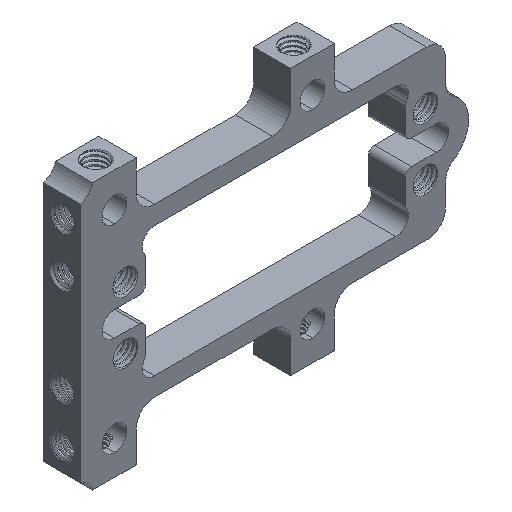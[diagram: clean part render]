
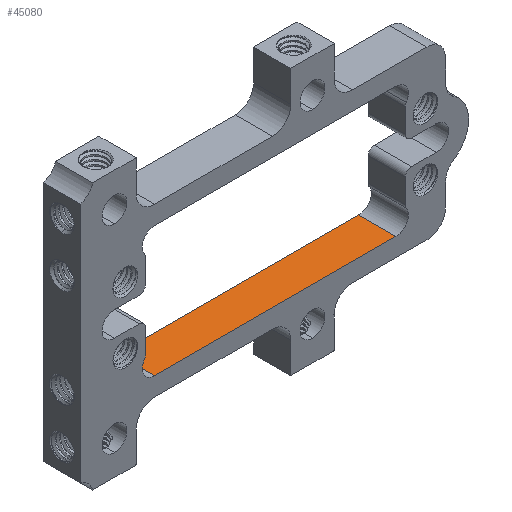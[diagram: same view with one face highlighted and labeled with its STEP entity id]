
A CAD part, isometric view. The second image highlights one B-rep face of the part: STEP entity #45080.
In plain terms, the highlighted planar face has unit normal (0, 0, 1).
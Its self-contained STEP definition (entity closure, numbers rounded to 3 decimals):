
#1235 = CARTESIAN_POINT ( 'NONE',  ( 0., 6., -10.5 ) ) ;
#4959 = EDGE_CURVE ( 'NONE', #9619, #38831, #83726, .T. ) ;
#5172 = VECTOR ( 'NONE', #21222, 1000. ) ;
#5644 = DIRECTION ( 'NONE',  ( 1., 0., 0. ) ) ;
#6178 = DIRECTION ( 'NONE',  ( 1., 0., 0. ) ) ;
#9619 = VERTEX_POINT ( 'NONE', #17512 ) ;
#12418 = CARTESIAN_POINT ( 'NONE',  ( 19.5, -1.521, -10.5 ) ) ;
#13304 = EDGE_CURVE ( 'NONE', #9619, #14862, #44185, .T. ) ;
#14862 = VERTEX_POINT ( 'NONE', #49595 ) ;
#17512 = CARTESIAN_POINT ( 'NONE',  ( -19.5, 0., -10.5 ) ) ;
#21021 = AXIS2_PLACEMENT_3D ( 'NONE', #40973, #89407, #5644 ) ;
#21222 = DIRECTION ( 'NONE',  ( 1., 0., 0. ) ) ;
#25007 = EDGE_LOOP ( 'NONE', ( #82067, #88527, #84897, #43278 ) ) ;
#25176 = CARTESIAN_POINT ( 'NONE',  ( 19.5, 0., -10.5 ) ) ;
#25528 = CARTESIAN_POINT ( 'NONE',  ( -19.5, -1.521, -10.5 ) ) ;
#34347 = VERTEX_POINT ( 'NONE', #38993 ) ;
#38831 = VERTEX_POINT ( 'NONE', #25176 ) ;
#38993 = CARTESIAN_POINT ( 'NONE',  ( 19.5, 6., -10.5 ) ) ;
#40079 = PLANE ( 'NONE',  #21021 ) ;
#40973 = CARTESIAN_POINT ( 'NONE',  ( 0., 0., -10.5 ) ) ;
#41929 = LINE ( 'NONE', #1235, #5172 ) ;
#41988 = DIRECTION ( 'NONE',  ( 0., 1., 0. ) ) ;
#42904 = VECTOR ( 'NONE', #41988, 1000. ) ;
#43278 = ORIENTED_EDGE ( 'NONE', *, *, #4959, .T. ) ;
#44185 = LINE ( 'NONE', #25528, #59309 ) ;
#45080 = ADVANCED_FACE ( 'NONE', ( #49758 ), #40079, .T. ) ;
#47990 = VECTOR ( 'NONE', #6178, 1000. ) ;
#49595 = CARTESIAN_POINT ( 'NONE',  ( -19.5, 6., -10.5 ) ) ;
#49758 = FACE_OUTER_BOUND ( 'NONE', #25007, .T. ) ;
#56700 = EDGE_CURVE ( 'NONE', #14862, #34347, #41929, .T. ) ;
#59309 = VECTOR ( 'NONE', #59692, 1000. ) ;
#59692 = DIRECTION ( 'NONE',  ( 0., 1., 0. ) ) ;
#60805 = EDGE_CURVE ( 'NONE', #38831, #34347, #88420, .T. ) ;
#74556 = CARTESIAN_POINT ( 'NONE',  ( 0., 0., -10.5 ) ) ;
#82067 = ORIENTED_EDGE ( 'NONE', *, *, #60805, .T. ) ;
#83726 = LINE ( 'NONE', #74556, #47990 ) ;
#84897 = ORIENTED_EDGE ( 'NONE', *, *, #13304, .F. ) ;
#88420 = LINE ( 'NONE', #12418, #42904 ) ;
#88527 = ORIENTED_EDGE ( 'NONE', *, *, #56700, .F. ) ;
#89407 = DIRECTION ( 'NONE',  ( 0., 0., 1. ) ) ;
